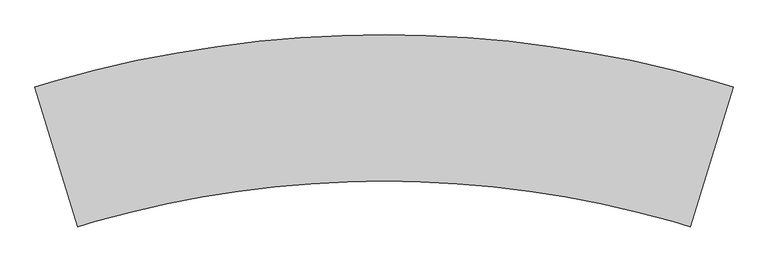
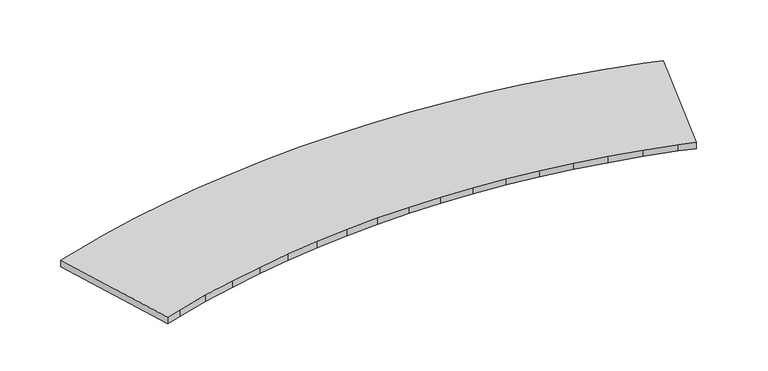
"""IFC4 building model written with IfcOpenShell, lengths in millimetres: proxy geometry, TECHNO_Решетка_R : РАП_Алюминиевая продольная/Белый RAL 9016."""

from ifc_helpers import new_model, si_unit, frame, origin, place, context, project, spatial, polyline, outline, extrude, source, transform, mapped, element, save


def mechanical_equipment_a774e377(model_context):
    return source(origin(), model_context, "Body", "SweptSolid", [
        extrude(outline(polyline([(589.7443498, 35.8761186), (517.5212313, -200.9562719), (487.9701136, -191.9445237), (428.2762032, -175.9896592), (368.062998, -162.1227723), (307.4035078, -150.3606769), (246.3712837, -140.7176349), (185.0403287, -133.2053386), (123.485008, -127.8328969), (61.7799588, -124.606824), (0.0, -123.5310315), (-61.7799588, -124.606824), (-123.485008, -127.8328969), (-185.0403287, -133.2053386), (-246.3712837, -140.7176349), (-307.4035078, -150.3606769), (-368.062998, -162.1227723), (-428.2762032, -175.9896592), (-487.9701136, -191.9445237), (-517.5212313, -200.9562719), (-589.7443498, 35.8761186), (-556.0692006, 46.145509), (-488.0446554, 64.3269683), (-419.4283448, 80.1290604), (-350.3034675, 93.5326251), (-280.7538391, 104.5214101), (-210.8637902, 113.0820913), (-140.718064, 119.2042887), (-70.4017138, 122.880579), (0.0, 124.1065046), (70.4017138, 122.880579), (140.718064, 119.2042887), (210.8637902, 113.0820913), (280.7538391, 104.5214101), (350.3034675, 93.5326251), (419.4283448, 80.1290604), (488.0446554, 64.3269683), (556.0692006, 46.145509), (589.7443498, 35.8761186)])), frame((0.0, 0.0, -13.0), z_axis=(0.0, 0.0, 1.0), x_axis=(1.0, 0.0, 0.0)), (0.0, 0.0, 1.0), 13.0),
    ])


if __name__ == "__main__":
    model = new_model("IFC4")
    model_context = context("Model", 3, world=origin())
    ifc_project = project(units=[si_unit("LENGTHUNIT", "METRE", prefix="MILLI")], contexts=[model_context])
    site = spatial("IfcSite", under=ifc_project)
    building = spatial("IfcBuilding", under=site)
    placement = place(None, origin())
    mechanical_equipment_shape = mechanical_equipment_a774e377(model_context)
    element("IfcBuildingElementProxy", 1, Name="TECHNO_Решетка_R : РАП_Алюминиевая продольная/Белый RAL 9016", ObjectType="TECHNO_Решетка_R : РАП_Алюминиевая продольная/Белый RAL 9016", at=placement, inside=building, context=model_context, shape_type="MappedRepresentation", body=[
        mapped(mechanical_equipment_shape, transform((0.0, 0.0, 0.0), x_axis=(1.0, 0.0, 0.0), y_axis=(0.0, 1.0, 0.0), z_axis=(0.0, 0.0, 1.0))),
    ])
    save(model, "model.ifc")
